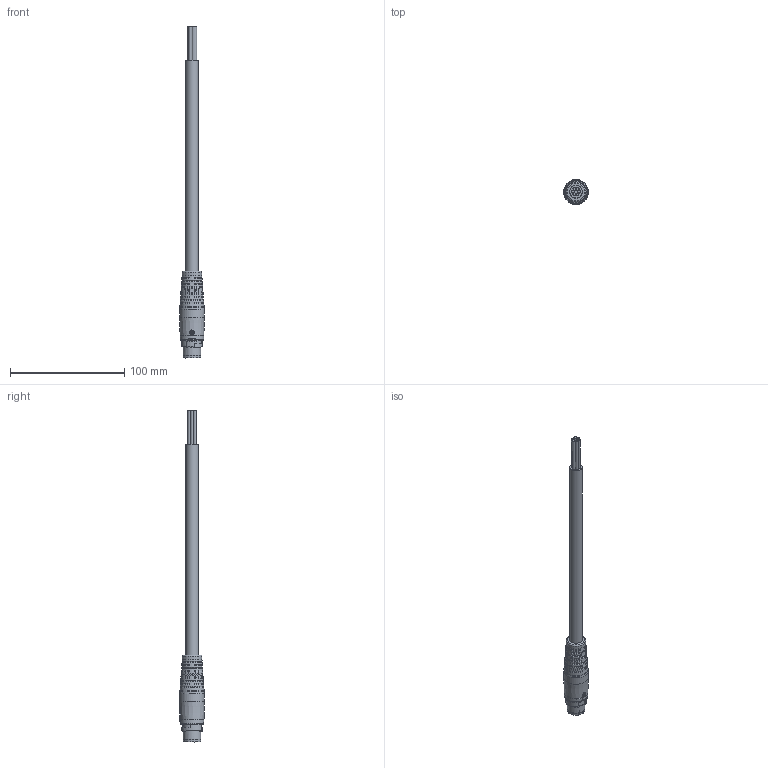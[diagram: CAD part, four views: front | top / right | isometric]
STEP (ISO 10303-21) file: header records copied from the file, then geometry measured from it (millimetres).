
FILE_DESCRIPTION (( 'STEP AP203' ), '1' );
FILE_NAME ('1124276_W-TEC_15K_STI_GLATT_STEP.STEP', '2023-09-05T11:10:35', ( '' ), ( '' ), 'SwSTEP 2.0', 'SolidWorks 2021', '' );
FILE_SCHEMA (( 'CONFIG_CONTROL_DESIGN' ));
Length unit declared in the file: millimetre
Products named in the file (1): 1124276_W-TEC_15K_STI_GLATT_STEP
Bounding box: 21.7 x 21.82 x 291.17 mm (x, y, z)
Surface area: 15483.1 mm2 (no closed solid volume)
Topology: 0 solids, 11 shells, 492 faces, 1723 edges, 1135 vertices
Faces by surface type: bspline 174, plane 138, cylinder 136, cone 26, torus 16, sphere 2
Full cylindrical faces by diameter (mm): 1.6 x3, 2.5 x5, 4 x1, 4.4 x3, 11.1 x2, 15.2 x1, 15.4 x1, 17.384 x1, 21.24 x1, 21.72 x1
Entity records: 25098 total; most frequent: CARTESIAN_POINT 13113, ORIENTED_EDGE 2646, DIRECTION 1836, EDGE_CURVE 1612, VERTEX_POINT 1110, B_SPLINE_CURVE_WITH_KNOTS 704, AXIS2_PLACEMENT_3D 666, EDGE_LOOP 566
